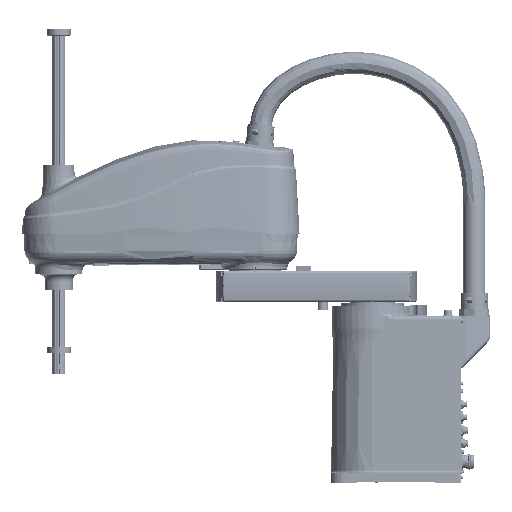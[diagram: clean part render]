
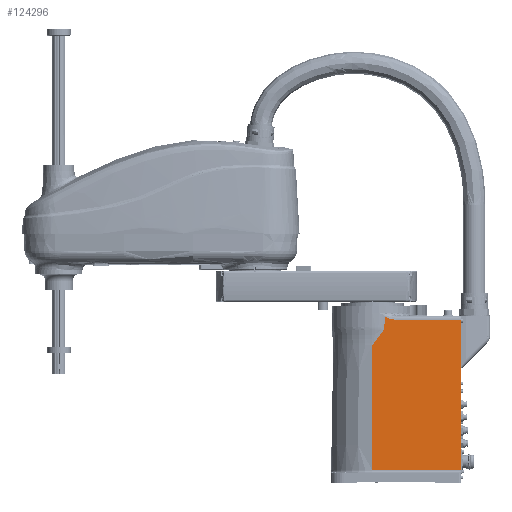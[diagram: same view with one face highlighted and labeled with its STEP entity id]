
A CAD part, left-side view. The second image highlights one B-rep face of the part: STEP entity #124296.
In plain terms, the highlighted planar face has unit normal (-1, 0, 0.018).
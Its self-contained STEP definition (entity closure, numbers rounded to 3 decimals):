
#470 = ORIENTED_EDGE ( 'NONE', *, *, #79629, .T. ) ;
#3095 = VERTEX_POINT ( 'NONE', #122619 ) ;
#4349 = CARTESIAN_POINT ( 'NONE',  ( -75.04, -24.678, 317.7 ) ) ;
#9492 = CARTESIAN_POINT ( 'NONE',  ( -75.04, -24.678, 317.7 ) ) ;
#11247 = CARTESIAN_POINT ( 'NONE',  ( -75.088, -30.367, 314.953 ) ) ;
#12259 = VERTEX_POINT ( 'NONE', #167392 ) ;
#13659 = EDGE_CURVE ( 'NONE', #12259, #175541, #164002, .T. ) ;
#22719 = CARTESIAN_POINT ( 'NONE',  ( -75.433, -22.083, 295.22 ) ) ;
#26065 = DIRECTION ( 'NONE',  ( 0.017, 0., 1. ) ) ;
#27216 = EDGE_CURVE ( 'NONE', #180315, #74727, #32690, .T. ) ;
#30450 = CARTESIAN_POINT ( 'NONE',  ( -75.137, -43.498, 312.14 ) ) ;
#32690 = B_SPLINE_CURVE_WITH_KNOTS ( 'NONE', 3,
 ( #52657, #176553, #136096, #216905 ),
 .UNSPECIFIED., .F., .F.,
 ( 4, 4 ),
 ( 0., 0.032 ),
 .UNSPECIFIED. ) ;
#38294 = EDGE_LOOP ( 'NONE', ( #247567, #206157, #470, #155845, #53298, #61604, #232422, #74895 ) ) ;
#42843 = CARTESIAN_POINT ( 'NONE',  ( -75.29, -23.25, 303.365 ) ) ;
#46440 = CARTESIAN_POINT ( 'NONE',  ( -75.344, -22.906, 300.298 ) ) ;
#50306 = LINE ( 'NONE', #223898, #161656 ) ;
#51457 = EDGE_CURVE ( 'NONE', #3095, #163478, #161799, .T. ) ;
#51733 = VERTEX_POINT ( 'NONE', #101945 ) ;
#52611 = LINE ( 'NONE', #266345, #134715 ) ;
#52657 = CARTESIAN_POINT ( 'NONE',  ( -75.539, -19.116, 289.111 ) ) ;
#53298 = ORIENTED_EDGE ( 'NONE', *, *, #13659, .T. ) ;
#55051 = VECTOR ( 'NONE', #78634, 1000. ) ;
#60154 = DIRECTION ( 'NONE',  ( -1., 0., 0.017 ) ) ;
#61604 = ORIENTED_EDGE ( 'NONE', *, *, #206357, .T. ) ;
#67414 = CARTESIAN_POINT ( 'NONE',  ( -75.467, -21.411, 293.235 ) ) ;
#70708 = CARTESIAN_POINT ( 'NONE',  ( -75.07, -27.865, 315.99 ) ) ;
#74727 = VERTEX_POINT ( 'NONE', #256593 ) ;
#74895 = ORIENTED_EDGE ( 'NONE', *, *, #105397, .T. ) ;
#78634 = DIRECTION ( 'NONE',  ( -0.017, 0., -1. ) ) ;
#79629 = EDGE_CURVE ( 'NONE', #163478, #51733, #52611, .T. ) ;
#91852 = CARTESIAN_POINT ( 'NONE',  ( -75.094, -31.219, 314.643 ) ) ;
#93633 = CARTESIAN_POINT ( 'NONE',  ( -75.048, -25.455, 317.231 ) ) ;
#94542 = CARTESIAN_POINT ( 'NONE',  ( -75.108, -33.8, 313.821 ) ) ;
#96004 = PLANE ( 'NONE',  #145189 ) ;
#100927 = B_SPLINE_CURVE_WITH_KNOTS ( 'NONE', 3,
 ( #263174, #30450, #199092, #155112, #135773, #94542, #177149, #91852, #11247, #136662, #70708, #175315, #157831, #93633, #241179, #9492 ),
 .UNSPECIFIED., .F., .F.,
 ( 4, 2, 2, 2, 2, 2, 2, 4 ),
 ( 0., 0.005, 0.011, 0.013, 0.016, 0.019, 0.02, 0.021 ),
 .UNSPECIFIED. ) ;
#101945 = CARTESIAN_POINT ( 'NONE',  ( -75.137, -45.315, 312.14 ) ) ;
#103754 = VERTEX_POINT ( 'NONE', #162980 ) ;
#105397 = EDGE_CURVE ( 'NONE', #74727, #103754, #107455, .T. ) ;
#107183 = EDGE_CURVE ( 'NONE', #103754, #3095, #50306, .T. ) ;
#107441 = FACE_OUTER_BOUND ( 'NONE', #38294, .T. ) ;
#107455 = LINE ( 'NONE', #120782, #55051 ) ;
#107875 = CARTESIAN_POINT ( 'NONE',  ( -75.38, -22.644, 298.258 ) ) ;
#120782 = CARTESIAN_POINT ( 'NONE',  ( -75., 0., 320. ) ) ;
#122619 = CARTESIAN_POINT ( 'NONE',  ( -80.168, -169., 23.913 ) ) ;
#124296 = ADVANCED_FACE ( 'NONE', ( #107441 ), #96004, .T. ) ;
#126389 = CARTESIAN_POINT ( 'NONE',  ( -75.539, -19.116, 289.111 ) ) ;
#127178 = CARTESIAN_POINT ( 'NONE',  ( -75.112, -24.288, 313.602 ) ) ;
#134715 = VECTOR ( 'NONE', #264517, 1000. ) ;
#135773 = CARTESIAN_POINT ( 'NONE',  ( -75.12, -36.405, 313.131 ) ) ;
#136096 = CARTESIAN_POINT ( 'NONE',  ( -75.842, -6.356, 271.744 ) ) ;
#136662 = CARTESIAN_POINT ( 'NONE',  ( -75.076, -28.69, 315.626 ) ) ;
#141364 = CARTESIAN_POINT ( 'NONE',  ( -75.493, -20.832, 291.756 ) ) ;
#145189 = AXIS2_PLACEMENT_3D ( 'NONE', #271881, #60154, #227033 ) ;
#155112 = CARTESIAN_POINT ( 'NONE',  ( -75.126, -38.159, 312.774 ) ) ;
#155845 = ORIENTED_EDGE ( 'NONE', *, *, #227530, .T. ) ;
#157831 = CARTESIAN_POINT ( 'NONE',  ( -75.056, -26.248, 316.795 ) ) ;
#161656 = VECTOR ( 'NONE', #201855, 1000. ) ;
#161799 = LINE ( 'NONE', #212100, #201278 ) ;
#162980 = CARTESIAN_POINT ( 'NONE',  ( -80.168, 0., 23.913 ) ) ;
#163478 = VERTEX_POINT ( 'NONE', #202429 ) ;
#164002 = B_SPLINE_CURVE_WITH_KNOTS ( 'NONE', 3,
 ( #4349, #127178, #233473, #172022, #42843, #170203, #46440, #107875, #189576, #22719, #254488, #67414 ),
 .UNSPECIFIED., .F., .F.,
 ( 4, 2, 2, 2, 2, 4 ),
 ( 0., 0.012, 0.015, 0.019, 0.022, 0.025 ),
 .UNSPECIFIED. ) ;
#167392 = CARTESIAN_POINT ( 'NONE',  ( -75.04, -24.678, 317.7 ) ) ;
#170203 = CARTESIAN_POINT ( 'NONE',  ( -75.326, -23.023, 301.32 ) ) ;
#172022 = CARTESIAN_POINT ( 'NONE',  ( -75.273, -23.359, 304.388 ) ) ;
#175315 = CARTESIAN_POINT ( 'NONE',  ( -75.06, -26.649, 316.587 ) ) ;
#175541 = VERTEX_POINT ( 'NONE', #240452 ) ;
#176553 = CARTESIAN_POINT ( 'NONE',  ( -75.69, -12.697, 280.457 ) ) ;
#177149 = CARTESIAN_POINT ( 'NONE',  ( -75.103, -32.937, 314.077 ) ) ;
#180315 = VERTEX_POINT ( 'NONE', #126389 ) ;
#189576 = CARTESIAN_POINT ( 'NONE',  ( -75.397, -22.503, 297.239 ) ) ;
#199092 = CARTESIAN_POINT ( 'NONE',  ( -75.135, -41.706, 312.278 ) ) ;
#201278 = VECTOR ( 'NONE', #26065, 1000. ) ;
#201855 = DIRECTION ( 'NONE',  ( 0., -1., 0. ) ) ;
#202284 = B_SPLINE_CURVE_WITH_KNOTS ( 'NONE', 3,
 ( #224858, #141364, #245888, #225774 ),
 .UNSPECIFIED., .F., .F.,
 ( 4, 4 ),
 ( 0., 0.005 ),
 .UNSPECIFIED. ) ;
#202429 = CARTESIAN_POINT ( 'NONE',  ( -75.137, -169., 312.14 ) ) ;
#206157 = ORIENTED_EDGE ( 'NONE', *, *, #51457, .T. ) ;
#206357 = EDGE_CURVE ( 'NONE', #175541, #180315, #202284, .T. ) ;
#212100 = CARTESIAN_POINT ( 'NONE',  ( -75., -169., 320. ) ) ;
#216905 = CARTESIAN_POINT ( 'NONE',  ( -75.994, 0., 263.043 ) ) ;
#223898 = CARTESIAN_POINT ( 'NONE',  ( -80.168, -170., 23.913 ) ) ;
#224858 = CARTESIAN_POINT ( 'NONE',  ( -75.467, -21.411, 293.235 ) ) ;
#225774 = CARTESIAN_POINT ( 'NONE',  ( -75.539, -19.116, 289.111 ) ) ;
#227033 = DIRECTION ( 'NONE',  ( 0.017, 0., 1. ) ) ;
#227530 = EDGE_CURVE ( 'NONE', #51733, #12259, #100927, .T. ) ;
#232422 = ORIENTED_EDGE ( 'NONE', *, *, #27216, .T. ) ;
#233473 = CARTESIAN_POINT ( 'NONE',  ( -75.183, -23.893, 309.504 ) ) ;
#240452 = CARTESIAN_POINT ( 'NONE',  ( -75.467, -21.411, 293.235 ) ) ;
#241179 = CARTESIAN_POINT ( 'NONE',  ( -75.044, -25.062, 317.46 ) ) ;
#245888 = CARTESIAN_POINT ( 'NONE',  ( -75.517, -20.061, 290.385 ) ) ;
#247567 = ORIENTED_EDGE ( 'NONE', *, *, #107183, .T. ) ;
#254488 = CARTESIAN_POINT ( 'NONE',  ( -75.45, -21.797, 294.221 ) ) ;
#256593 = CARTESIAN_POINT ( 'NONE',  ( -75.994, 0., 263.043 ) ) ;
#263174 = CARTESIAN_POINT ( 'NONE',  ( -75.137, -45.315, 312.14 ) ) ;
#264517 = DIRECTION ( 'NONE',  ( 0., 1., 0. ) ) ;
#266345 = CARTESIAN_POINT ( 'NONE',  ( -75.137, -30.594, 312.14 ) ) ;
#271881 = CARTESIAN_POINT ( 'NONE',  ( -75., 0., 320. ) ) ;
